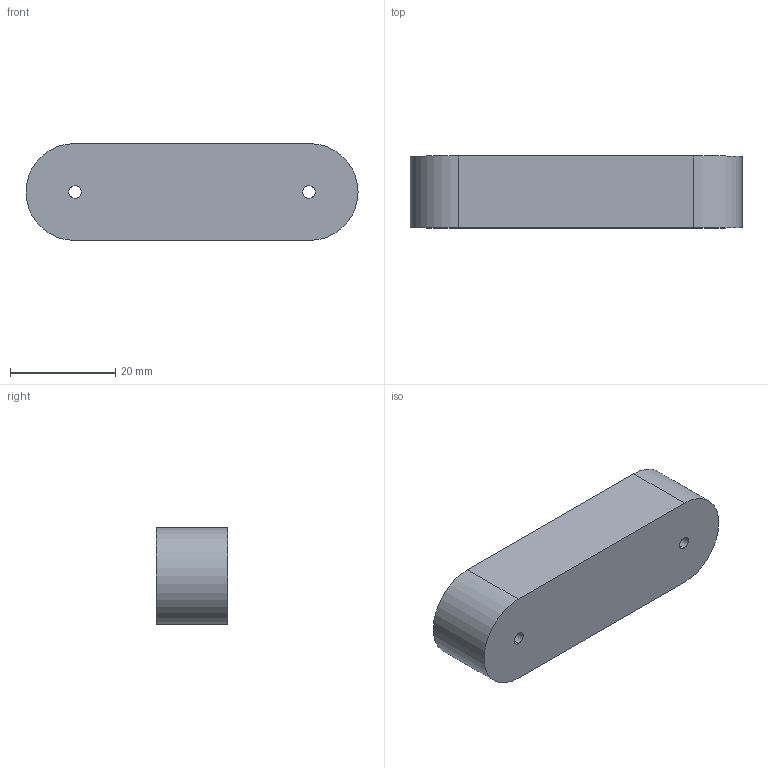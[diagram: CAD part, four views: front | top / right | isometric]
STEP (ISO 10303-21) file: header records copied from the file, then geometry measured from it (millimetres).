
FILE_DESCRIPTION (( 'STEP AP214' ), '1' );
FILE_NAME ('5060_V01_STP_POCKET_CLOSED_SINGLE_CLIP_SERIES.STEP', '2025-04-30T17:52:57', ( '' ), ( '' ), 'SwSTEP 2.0', 'SolidWorks 2025', '' );
FILE_SCHEMA (( 'AUTOMOTIVE_DESIGN' ));
Length unit declared in the file: inch
Products named in the file (1): 5060_V01_STP_POCKET_CLOSED_SINGLE_CLIP_SERIES
Bounding box: 63.12 x 13.67 x 18.41 mm (x, y, z)
Volume: 6680.7 mm3; surface area: 5672.4 mm2
Topology: 1 solids, 1 shells, 15 faces, 36 edges, 24 vertices
Faces by surface type: cylinder 8, plane 7
Entity records: 481 total; most frequent: DIRECTION 84, CARTESIAN_POINT 76, ORIENTED_EDGE 72, EDGE_CURVE 36, AXIS2_PLACEMENT_3D 32, VERTEX_POINT 24, VECTOR 20, LINE 20
